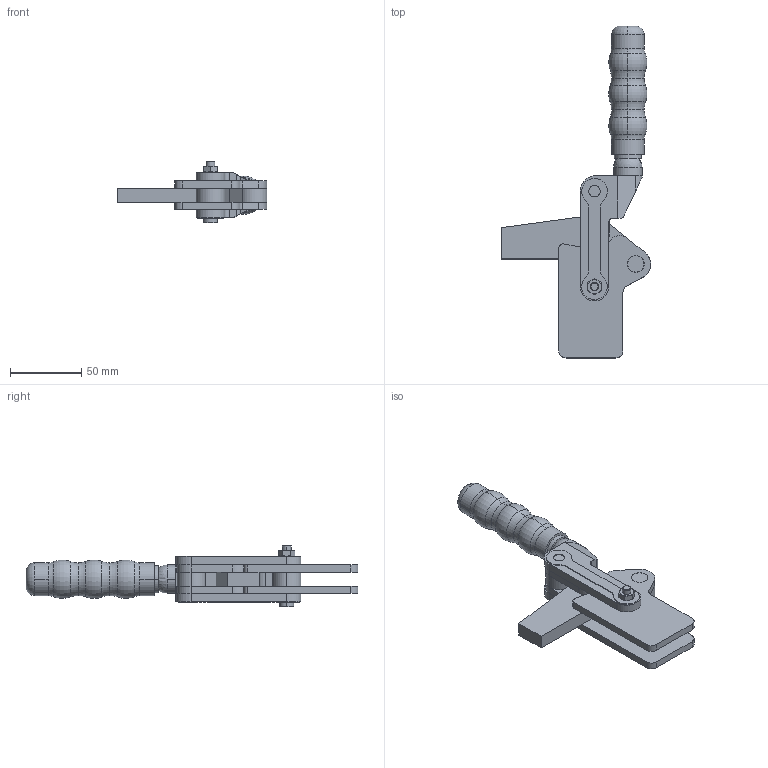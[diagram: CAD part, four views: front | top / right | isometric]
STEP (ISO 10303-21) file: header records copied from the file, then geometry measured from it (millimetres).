
FILE_DESCRIPTION( ( '' ), '1' );
FILE_NAME( '//partserver002.servicenet/client_exchange/iodir/jobs/output/wkb5782701_no0/STEP/va700_1a_2_14b.stp', '2006-11-29T10:38:17', ( '' ), ( '' ), ' ', ' ', ' ' );
FILE_SCHEMA( ( 'automotive_design' ) );
Length unit declared in the file: millimetre
Products named in the file (5): 1; 2; 3; 4; 5
Bounding box: 104.91 x 233.03 x 43 mm (x, y, z)
Volume: 164640.8 mm3; surface area: 55782.5 mm2
Topology: 5 solids, 6 shells, 221 faces, 536 edges, 349 vertices
Faces by surface type: cylinder 103, plane 82, torus 20, cone 14, sphere 2
Entity records: 12836 total; most frequent: DIRECTION 1239, CARTESIAN_POINT 1155, STYLED_ITEM 1107, PRESENTATION_STYLE_ASSIGNMENT 1107, COLOUR_RGB 1107, ORIENTED_EDGE 1064, EDGE_CURVE 532, CURVE_STYLE 532
